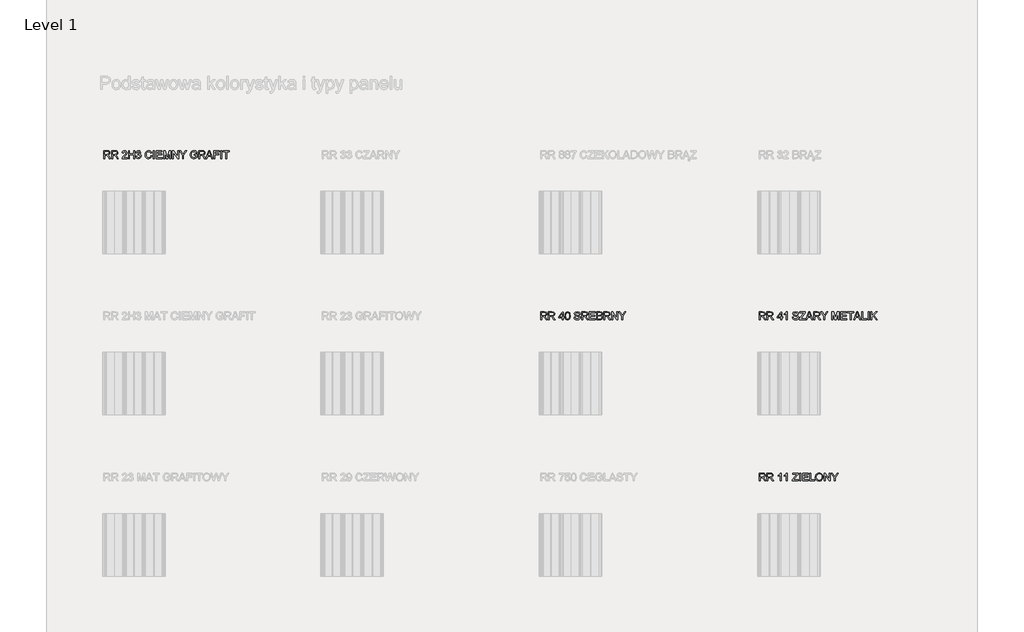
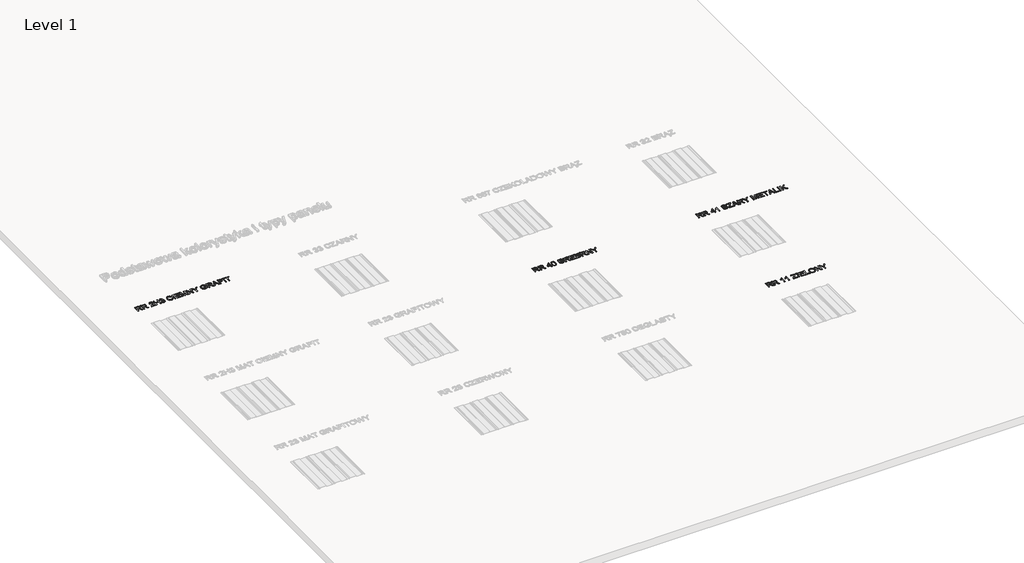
# One storey, part 7 of 9: 4 proxies.
"""IFC4 building model written with IfcOpenShell, lengths in millimetres."""

from ifc_helpers import new_model, si_unit, frame, origin, place, context, project, spatial, polyline, outline, extrude, element, save

model = new_model("IFC4")

# Units and contexts
model_context = context("Model", 3, world=origin())
ifc_project = project(units=[si_unit("LENGTHUNIT", "METRE", prefix="MILLI")], contexts=[model_context])

# Site, building, storey
site = spatial("IfcSite", under=ifc_project)
building = spatial("IfcBuilding", under=site)
storey = spatial("IfcBuildingStorey", under=building, Name="Level 1", Elevation=0.0)

# Proxies
placement = place(None, origin())
element("IfcBuildingElementProxy", 1, Name="150 Blue", ObjectType="150 Blue", at=placement, inside=storey, context=model_context, shape_type="SweptSolid", body=[
    extrude(outline(polyline([(-8736.4118342, 1464.3485888), (-8736.4118342, 1615.033054), (-8671.4806621, 1615.033054), (-8641.3327325, 1610.967958), (-8632.0529092, 1605.3393635), (-8624.8516192, 1596.583772), (-8620.2301016, 1585.7266546), (-8618.6895957, 1573.7934824), (-8621.2417771, 1558.9494439), (-8628.8983211, 1546.6437911), (-8641.8891541, 1537.6214852), (-8660.4442022, 1532.6274871), (-8649.7388361, 1524.5708714), (-8634.4717333, 1505.1834903), (-8609.3453931, 1464.3485888), (-8631.2343718, 1464.3485888), (-8650.8424821, 1495.5817702), (-8665.0059389, 1516.2567383), (-8674.9571469, 1526.0240053), (-8683.9150735, 1529.6108548), (-8694.8411687, 1530.2730423), (-8717.576276, 1530.2730423), (-8717.576276, 1464.3485888), (-8736.4118342, 1464.3485888)]), holes=[polyline([(-8717.576276, 1549.1086005), (-8675.4169994, 1549.1086005), (-8653.9142968, 1551.775745), (-8641.7006145, 1560.3106073), (-8637.5251539, 1573.0945066), (-8639.5163152, 1582.2823594), (-8645.4897991, 1589.6859846), (-8655.7675023, 1594.5696181), (-8670.6713217, 1596.1974959), (-8717.576276, 1596.1974959), (-8717.576276, 1549.1086005)])]), frame((0.0, 0.0, 600.0), z_axis=(0.0, 0.0, 1.0), x_axis=(1.0, 0.0, 0.0)), (0.0, 0.0, 1.0), 10.0),
    extrude(outline(polyline([(-8585.727369, 1464.3485888), (-8585.727369, 1615.033054), (-8520.7961968, 1615.033054), (-8490.6482673, 1610.967958), (-8481.368444, 1605.3393635), (-8474.1671539, 1596.583772), (-8469.5456364, 1585.7266546), (-8468.0051305, 1573.7934824), (-8470.5573119, 1558.9494439), (-8478.2138559, 1546.6437911), (-8491.2046888, 1537.6214852), (-8509.759737, 1532.6274871), (-8499.0543709, 1524.5708714), (-8483.7872681, 1505.1834903), (-8458.6609278, 1464.3485888), (-8480.5499066, 1464.3485888), (-8500.1580169, 1495.5817702), (-8514.3214737, 1516.2567383), (-8524.2726817, 1526.0240053), (-8533.2306083, 1529.6108548), (-8544.1567035, 1530.2730423), (-8566.8918108, 1530.2730423), (-8566.8918108, 1464.3485888), (-8585.727369, 1464.3485888)]), holes=[polyline([(-8566.8918108, 1549.1086005), (-8524.7325342, 1549.1086005), (-8503.2298316, 1551.775745), (-8491.0161493, 1560.3106073), (-8486.8406887, 1573.0945066), (-8488.83185, 1582.2823594), (-8494.8053339, 1589.6859846), (-8505.0830371, 1594.5696181), (-8519.9868564, 1596.1974959), (-8566.8918108, 1596.1974959), (-8566.8918108, 1549.1086005)])]), frame((0.0, 0.0, 600.0), z_axis=(0.0, 0.0, 1.0), x_axis=(1.0, 0.0, 0.0)), (0.0, 0.0, 1.0), 10.0),
    extrude(outline(polyline([(-8286.7128833, 1483.184147), (-8286.7128833, 1464.3485888), (-8385.5995636, 1464.3485888), (-8383.5762126, 1477.3348232), (-8372.1166885, 1497.3292097), (-8348.5170585, 1519.1630061), (-8316.0146842, 1550.5433403), (-8309.9308357, 1561.3590709), (-8307.9028862, 1571.880496), (-8309.8204711, 1581.3120707), (-8315.5732258, 1589.1525557), (-8324.4161893, 1594.4362608), (-8335.6044005, 1596.1974959), (-8347.3536317, 1594.4776476), (-8356.4817037, 1589.3181026), (-8362.3724141, 1581.1235311), (-8364.4095607, 1570.2986034), (-8383.2451188, 1572.6530482), (-8378.6787836, 1590.872404), (-8368.8057505, 1604.1805352), (-8354.1410545, 1612.3199243), (-8335.1997303, 1615.033054), (-8316.1204503, 1612.0164217), (-8301.4833454, 1602.9665246), (-8292.1713324, 1589.4468613), (-8289.0673281, 1573.0209302), (-8292.4150542, 1555.1602593), (-8303.5434846, 1536.6925832), (-8330.5276289, 1510.8856612), (-8352.1958784, 1492.7674729), (-8360.6939525, 1483.184147), (-8286.7128833, 1483.184147)])), frame((0.0, 0.0, 600.0), z_axis=(0.0, 0.0, 1.0), x_axis=(1.0, 0.0, 0.0)), (0.0, 0.0, 1.0), 10.0),
    extrude(outline(polyline([(-8260.8139908, 1464.3485888), (-8260.8139908, 1615.033054), (-8241.9784327, 1615.033054), (-8241.9784327, 1553.81749), (-8161.9273105, 1553.81749), (-8161.9273105, 1615.033054), (-8143.0917524, 1615.033054), (-8143.0917524, 1464.3485888), (-8161.9273105, 1464.3485888), (-8161.9273105, 1534.9819319), (-8241.9784327, 1534.9819319), (-8241.9784327, 1464.3485888), (-8260.8139908, 1464.3485888)])), frame((0.0, 0.0, 600.0), z_axis=(0.0, 0.0, 1.0), x_axis=(1.0, 0.0, 0.0)), (0.0, 0.0, 1.0), 10.0),
    extrude(outline(polyline([(-8117.1928599, 1504.3741499), (-8098.3573018, 1506.7285947), (-8094.1404544, 1494.8919915), (-8087.9646354, 1486.8997551), (-8079.5263421, 1482.3472154), (-8068.522072, 1480.8297022), (-8055.6094139, 1482.9174325), (-8045.6398119, 1489.1806235), (-8039.2662563, 1498.5248262), (-8037.1417378, 1509.8555916), (-8039.2478622, 1520.6115414), (-8045.5662355, 1529.3349433), (-8055.1311673, 1535.1152891), (-8066.9769676, 1537.0420711), (-8080.1839312, 1534.9819319), (-8078.0870038, 1553.81749), (-8075.0703715, 1553.5967608), (-8053.6964276, 1559.0046262), (-8046.5779109, 1565.8656254), (-8044.2050721, 1575.6328924), (-8045.9249204, 1583.767683), (-8051.0844654, 1590.3665663), (-8058.9571401, 1594.7397635), (-8068.8163776, 1596.1974959), (-8078.6940091, 1594.7259679), (-8086.7690189, 1590.311384), (-8092.6643279, 1582.9537441), (-8096.002857, 1572.6530482), (-8114.8384152, 1575.007493), (-8109.2925941, 1591.9208677), (-8099.4241596, 1604.5484172), (-8085.9228903, 1612.4118948), (-8069.4785651, 1615.033054), (-8046.7618519, 1609.864312), (-8030.8693498, 1595.7376434), (-8025.3695139, 1576.7365383), (-8030.5934383, 1559.3725082), (-8046.0444821, 1546.9013085), (-8034.2538641, 1542.1372367), (-8025.5166667, 1534.0254387), (-8020.1088014, 1523.0073729), (-8018.3061796, 1509.5244978), (-8021.9114232, 1491.1671863), (-8032.7271538, 1475.8265071), (-8049.0519174, 1465.4522348), (-8069.1842596, 1461.994144), (-8087.3944183, 1464.9463971), (-8102.2200627, 1473.8031561), (-8112.5299556, 1487.3504106), (-8117.1928599, 1504.3741499)])), frame((0.0, 0.0, 600.0), z_axis=(0.0, 0.0, 1.0), x_axis=(1.0, 0.0, 0.0)), (0.0, 0.0, 1.0), 10.0),
    extrude(outline(polyline([(-7829.9505981, 1517.9122073), (-7811.1150399, 1513.056165), (-7819.8062521, 1491.1074054), (-7833.445477, 1475.072349), (-7851.3613302, 1465.2636953), (-7872.8824269, 1461.994144), (-7894.7300189, 1464.4681505), (-7912.0802535, 1471.8901697), (-7925.3791876, 1484.0026844), (-7935.0728782, 1500.5481771), (-7940.9911798, 1519.9999376), (-7942.963947, 1540.8312556), (-7940.7336624, 1562.8030078), (-7934.0428086, 1581.7765217), (-7923.2408735, 1597.1493905), (-7908.6773451, 1608.3192076), (-7891.4052854, 1615.120426), (-7872.4777567, 1617.3874988), (-7851.8257812, 1614.4536399), (-7834.7514581, 1605.6520632), (-7821.7882163, 1591.5253945), (-7813.4694847, 1572.61626), (-7832.3050429, 1568.1280997), (-7838.8349483, 1581.8638936), (-7847.7560867, 1591.2862712), (-7859.1788226, 1596.7355233), (-7873.2135207, 1598.5519407), (-7889.3911315, 1596.5377867), (-7902.6808685, 1590.495325), (-7912.7654337, 1581.0591518), (-7919.3275288, 1568.8638636), (-7924.1283889, 1540.8680438), (-7922.7074446, 1523.4672254), (-7918.444612, 1508.4208518), (-7911.1789426, 1496.3037386), (-7900.7494881, 1487.6907014), (-7888.2460987, 1482.544952), (-7874.7586251, 1480.8297022), (-7859.0362683, 1483.1657529), (-7845.9350708, 1490.1739049), (-7836.0436436, 1501.7805818), (-7829.9505981, 1517.9122073)])), frame((0.0, 0.0, 600.0), z_axis=(0.0, 0.0, 1.0), x_axis=(1.0, 0.0, 0.0)), (0.0, 0.0, 1.0), 10.0),
    extrude(outline(polyline([(-7782.8617027, 1464.3485888), (-7782.8617027, 1615.033054), (-7764.0261446, 1615.033054), (-7764.0261446, 1464.3485888), (-7782.8617027, 1464.3485888)])), frame((0.0, 0.0, 600.0), z_axis=(0.0, 0.0, 1.0), x_axis=(1.0, 0.0, 0.0)), (0.0, 0.0, 1.0), 10.0),
    extrude(outline(polyline([(-7726.3550282, 1464.3485888), (-7726.3550282, 1615.033054), (-7618.0505689, 1615.033054), (-7618.0505689, 1596.1974959), (-7707.5194701, 1596.1974959), (-7707.5194701, 1551.4630453), (-7622.7594584, 1551.4630453), (-7622.7594584, 1532.6274871), (-7707.5194701, 1532.6274871), (-7707.5194701, 1483.184147), (-7615.6961241, 1483.184147), (-7615.6961241, 1464.3485888), (-7726.3550282, 1464.3485888)])), frame((0.0, 0.0, 600.0), z_axis=(0.0, 0.0, 1.0), x_axis=(1.0, 0.0, 0.0)), (0.0, 0.0, 1.0), 10.0),
    extrude(outline(polyline([(-7587.4427869, 1464.3485888), (-7587.4427869, 1615.033054), (-7555.1427477, 1615.033054), (-7524.2406601, 1508.825522), (-7517.9866662, 1486.6422377), (-7511.2544257, 1510.664932), (-7480.9409493, 1615.033054), (-7448.5305455, 1615.033054), (-7448.5305455, 1464.3485888), (-7467.3661036, 1464.3485888), (-7467.3661036, 1596.1974959), (-7505.2211609, 1464.3485888), (-7530.7153832, 1464.3485888), (-7568.6072287, 1596.1974959), (-7568.6072287, 1464.3485888), (-7587.4427869, 1464.3485888)])), frame((0.0, 0.0, 600.0), z_axis=(0.0, 0.0, 1.0), x_axis=(1.0, 0.0, 0.0)), (0.0, 0.0, 1.0), 10.0),
    extrude(outline(polyline([(-7415.5683187, 1464.3485888), (-7415.5683187, 1615.033054), (-7395.4083854, 1615.033054), (-7316.6816384, 1495.6553466), (-7316.6816384, 1615.033054), (-7297.8460803, 1615.033054), (-7297.8460803, 1464.3485888), (-7318.0060136, 1464.3485888), (-7396.7327606, 1583.7630844), (-7396.7327606, 1464.3485888), (-7415.5683187, 1464.3485888)])), frame((0.0, 0.0, 600.0), z_axis=(0.0, 0.0, 1.0), x_axis=(1.0, 0.0, 0.0)), (0.0, 0.0, 1.0), 10.0),
    extrude(outline(polyline([(-7222.5038477, 1464.3485888), (-7222.5038477, 1528.176115), (-7281.3649669, 1615.033054), (-7259.1816826, 1615.033054), (-7227.7645602, 1568.6431344), (-7211.688117, 1544.951534), (-7195.5380974, 1570.3353916), (-7167.0272428, 1615.033054), (-7144.8071703, 1615.033054), (-7203.6682895, 1528.176115), (-7203.6682895, 1464.3485888), (-7222.5038477, 1464.3485888)])), frame((0.0, 0.0, 600.0), z_axis=(0.0, 0.0, 1.0), x_axis=(1.0, 0.0, 0.0)), (0.0, 0.0, 1.0), 10.0),
    extrude(outline(polyline([(-6998.8315946, 1523.209708), (-6998.8315946, 1542.0452662), (-6937.6160306, 1542.0452662), (-6937.6160306, 1485.7225327), (-6967.8375365, 1467.9538324), (-6999.7880878, 1461.994144), (-7020.9183099, 1464.3623844), (-7040.0159839, 1471.4671054), (-7055.880895, 1483.0599868), (-7067.312828, 1498.8927082), (-7074.224411, 1517.8846162), (-7076.528272, 1538.9550574), (-7074.233608, 1560.17725), (-7067.3496162, 1579.9187176), (-7056.161405, 1596.4780059), (-7040.954083, 1608.1536607), (-7022.4312246, 1615.0790393), (-7001.296404, 1617.3874988), (-6971.8290561, 1612.0348158), (-6960.0798249, 1605.6336691), (-6951.1724821, 1597.135595), (-6939.7865344, 1572.2115898), (-6957.1505645, 1567.3187593), (-6965.7406091, 1584.7379717), (-6980.4191007, 1594.7811502), (-7001.5907095, 1598.5519407), (-7025.7053743, 1594.4868446), (-7042.1129113, 1583.8182667), (-7051.8066019, 1569.305322), (-7057.6927138, 1539.7276096), (-7055.9222817, 1521.7151874), (-7050.6109854, 1506.8941416), (-7041.9197733, 1495.3702381), (-7030.0095937, 1487.249243), (-7016.0714646, 1482.4345874), (-7001.296404, 1480.8297022), (-6975.5262702, 1485.6673504), (-6956.4515887, 1495.9864404), (-6956.4515887, 1523.209708), (-6998.8315946, 1523.209708)])), frame((0.0, 0.0, 600.0), z_axis=(0.0, 0.0, 1.0), x_axis=(1.0, 0.0, 0.0)), (0.0, 0.0, 1.0), 10.0),
    extrude(outline(polyline([(-6907.0082486, 1464.3485888), (-6907.0082486, 1615.033054), (-6842.0770764, 1615.033054), (-6811.9291469, 1610.967958), (-6802.6493236, 1605.3393635), (-6795.4480336, 1596.583772), (-6790.826516, 1585.7266546), (-6789.2860101, 1573.7934824), (-6791.8381915, 1558.9494439), (-6799.4947355, 1546.6437911), (-6812.4855685, 1537.6214852), (-6831.0406166, 1532.6274871), (-6820.3352505, 1524.5708714), (-6805.0681477, 1505.1834903), (-6779.9418075, 1464.3485888), (-6801.8307862, 1464.3485888), (-6821.4388965, 1495.5817702), (-6835.6023533, 1516.2567383), (-6845.5535613, 1526.0240053), (-6854.5114879, 1529.6108548), (-6865.4375831, 1530.2730423), (-6888.1726904, 1530.2730423), (-6888.1726904, 1464.3485888), (-6907.0082486, 1464.3485888)]), holes=[polyline([(-6888.1726904, 1549.1086005), (-6846.0134138, 1549.1086005), (-6824.5107112, 1551.775745), (-6812.2970289, 1560.3106073), (-6808.1215683, 1573.0945066), (-6810.1127296, 1582.2823594), (-6816.0862135, 1589.6859846), (-6826.3639167, 1594.5696181), (-6841.267736, 1596.1974959), (-6888.1726904, 1596.1974959), (-6888.1726904, 1549.1086005)])]), frame((0.0, 0.0, 600.0), z_axis=(0.0, 0.0, 1.0), x_axis=(1.0, 0.0, 0.0)), (0.0, 0.0, 1.0), 10.0),
    extrude(outline(polyline([(-6773.8349663, 1464.3485888), (-6713.6862601, 1615.033054), (-6697.6466051, 1615.033054), (-6637.5346871, 1464.3485888), (-6657.4371031, 1464.3485888), (-6674.6539804, 1511.4374842), (-6736.7524612, 1511.4374842), (-6753.9693386, 1464.3485888), (-6773.8349663, 1464.3485888)]), holes=[polyline([(-6729.8362797, 1530.2730423), (-6681.5333737, 1530.2730423), (-6695.1450076, 1567.3187593), (-6705.7032208, 1596.1974959), (-6715.0842117, 1570.5561208), (-6729.8362797, 1530.2730423)])]), frame((0.0, 0.0, 600.0), z_axis=(0.0, 0.0, 1.0), x_axis=(1.0, 0.0, 0.0)), (0.0, 0.0, 1.0), 10.0),
    extrude(outline(polyline([(-6617.411542, 1464.3485888), (-6617.411542, 1615.033054), (-6516.1704169, 1615.033054), (-6516.1704169, 1596.1974959), (-6598.5759838, 1596.1974959), (-6598.5759838, 1551.4630453), (-6527.9426408, 1551.4630453), (-6527.9426408, 1532.6274871), (-6598.5759838, 1532.6274871), (-6598.5759838, 1464.3485888), (-6617.411542, 1464.3485888)])), frame((0.0, 0.0, 600.0), z_axis=(0.0, 0.0, 1.0), x_axis=(1.0, 0.0, 0.0)), (0.0, 0.0, 1.0), 10.0),
    extrude(outline(polyline([(-6487.9170797, 1464.3485888), (-6487.9170797, 1615.033054), (-6469.0815215, 1615.033054), (-6469.0815215, 1464.3485888), (-6487.9170797, 1464.3485888)])), frame((0.0, 0.0, 600.0), z_axis=(0.0, 0.0, 1.0), x_axis=(1.0, 0.0, 0.0)), (0.0, 0.0, 1.0), 10.0),
    extrude(outline(polyline([(-6393.7392889, 1464.3485888), (-6393.7392889, 1596.1974959), (-6443.1826291, 1596.1974959), (-6443.1826291, 1615.033054), (-6325.4603906, 1615.033054), (-6325.4603906, 1596.1974959), (-6374.9037308, 1596.1974959), (-6374.9037308, 1464.3485888), (-6393.7392889, 1464.3485888)])), frame((0.0, 0.0, 600.0), z_axis=(0.0, 0.0, 1.0), x_axis=(1.0, 0.0, 0.0)), (0.0, 0.0, 1.0), 10.0),
])
element("IfcBuildingElementProxy", 2, Name="150 Blue", ObjectType="150 Blue", at=placement, inside=storey, context=model_context, shape_type="SweptSolid", body=[
    extrude(outline(polyline([(-336.4118342, -1635.6514112), (-336.4118342, -1484.966946), (-271.4806621, -1484.966946), (-241.3327325, -1489.032042), (-232.0529092, -1494.6606365), (-224.8516192, -1503.416228), (-220.2301016, -1514.2733454), (-218.6895957, -1526.2065176), (-221.2417771, -1541.0505561), (-228.8983211, -1553.3562089), (-241.8891541, -1562.3785148), (-260.4442022, -1567.3725129), (-249.7388361, -1575.4291286), (-234.4717333, -1594.8165097), (-209.3453931, -1635.6514112), (-231.2343718, -1635.6514112), (-250.8424821, -1604.4182298), (-265.0059389, -1583.7432617), (-274.9571469, -1573.9759947), (-283.9150735, -1570.3891452), (-294.8411687, -1569.7269577), (-317.576276, -1569.7269577), (-317.576276, -1635.6514112), (-336.4118342, -1635.6514112)]), holes=[polyline([(-317.576276, -1550.8913995), (-275.4169994, -1550.8913995), (-253.9142968, -1548.224255), (-241.7006145, -1539.6893927), (-237.5251539, -1526.9054934), (-239.5163152, -1517.7176406), (-245.4897991, -1510.3140154), (-255.7675023, -1505.4303819), (-270.6713217, -1503.8025041), (-317.576276, -1503.8025041), (-317.576276, -1550.8913995)])]), frame((0.0, 0.0, 600.0), z_axis=(0.0, 0.0, 1.0), x_axis=(1.0, 0.0, 0.0)), (0.0, 0.0, 1.0), 10.0),
    extrude(outline(polyline([(-185.727369, -1635.6514112), (-185.727369, -1484.966946), (-120.7961968, -1484.966946), (-90.6482673, -1489.032042), (-81.368444, -1494.6606365), (-74.1671539, -1503.416228), (-69.5456364, -1514.2733454), (-68.0051305, -1526.2065176), (-70.5573119, -1541.0505561), (-78.2138559, -1553.3562089), (-91.2046888, -1562.3785148), (-109.759737, -1567.3725129), (-99.0543709, -1575.4291286), (-83.7872681, -1594.8165097), (-58.6609278, -1635.6514112), (-80.5499066, -1635.6514112), (-100.1580169, -1604.4182298), (-114.3214737, -1583.7432617), (-124.2726817, -1573.9759947), (-133.2306083, -1570.3891452), (-144.1567035, -1569.7269577), (-166.8918108, -1569.7269577), (-166.8918108, -1635.6514112), (-185.727369, -1635.6514112)]), holes=[polyline([(-166.8918108, -1550.8913995), (-124.7325342, -1550.8913995), (-103.2298316, -1548.224255), (-91.0161493, -1539.6893927), (-86.8406887, -1526.9054934), (-88.83185, -1517.7176406), (-94.8053339, -1510.3140154), (-105.0830371, -1505.4303819), (-119.9868564, -1503.8025041), (-166.8918108, -1503.8025041), (-166.8918108, -1550.8913995)])]), frame((0.0, 0.0, 600.0), z_axis=(0.0, 0.0, 1.0), x_axis=(1.0, 0.0, 0.0)), (0.0, 0.0, 1.0), 10.0),
    extrude(outline(polyline([(77.9704452, -1635.6514112), (77.9704452, -1600.3347397), (9.6915469, -1600.3347397), (9.6915469, -1581.4991815), (82.6793347, -1487.3213907), (96.8060033, -1487.3213907), (96.8060033, -1581.4991815), (115.6415615, -1581.4991815), (115.6415615, -1600.3347397), (96.8060033, -1600.3347397), (96.8060033, -1635.6514112), (77.9704452, -1635.6514112)]), holes=[polyline([(77.9704452, -1581.4991815), (77.9704452, -1523.3002499), (32.8681126, -1581.4991815), (77.9704452, -1581.4991815)])]), frame((0.0, 0.0, 600.0), z_axis=(0.0, 0.0, 1.0), x_axis=(1.0, 0.0, 0.0)), (0.0, 0.0, 1.0), 10.0),
    extrude(outline(polyline([(132.1226749, -1561.5231892), (133.5068309, -1537.4039259), (137.6592989, -1518.168296), (144.5386922, -1503.5219941), (154.1036241, -1493.1707145), (166.4230724, -1487.0178881), (181.566015, -1484.966946), (203.5653583, -1489.8229883), (218.7588847, -1503.8208982), (227.5880526, -1526.1145471), (231.0093552, -1561.5231892), (229.6389947, -1585.5044967), (225.5279134, -1604.6941413), (218.6899068, -1619.3542388), (209.1387705, -1629.7469052), (196.7917311, -1635.9411183), (181.566015, -1638.005856), (161.9946929, -1634.4190065), (147.1322603, -1623.6584581), (135.8750712, -1598.1734329), (132.1226749, -1561.5231892)]), holes=[polyline([(150.958233, -1561.486401), (153.165525, -1591.1146971), (159.7874009, -1608.2625966), (169.6466384, -1616.4433725), (181.566015, -1619.1702978), (193.4853917, -1616.4341755), (203.3446291, -1608.2258084), (209.966505, -1591.0687119), (212.173797, -1561.486401), (210.0400814, -1532.5248909), (203.6389347, -1515.2436342), (193.7980913, -1506.6627866), (181.3452858, -1503.8025041), (169.5546679, -1506.3224958), (160.0817065, -1513.8824708), (153.2391014, -1532.2397823), (150.958233, -1561.486401)])]), frame((0.0, 0.0, 600.0), z_axis=(0.0, 0.0, 1.0), x_axis=(1.0, 0.0, 0.0)), (0.0, 0.0, 1.0), 10.0),
    extrude(outline(polyline([(306.3515878, -1583.8536263), (325.1871459, -1583.8536263), (331.2571988, -1602.7075785), (346.0828432, -1614.6269552), (368.6707978, -1619.1702978), (388.3524845, -1615.7306011), (401.0628074, -1606.2760339), (405.2382681, -1593.6392873), (402.1112711, -1581.8854576), (389.3089777, -1573.3322012), (361.8833749, -1566.1401082), (332.3608448, -1556.8510878), (316.3395839, -1542.8347838), (311.0604773, -1524.1095903), (312.6929537, -1513.0777289), (317.5903827, -1502.7908286), (325.6240058, -1494.0720253), (336.6650642, -1487.744455), (364.5873076, -1482.6125012), (394.3857492, -1487.9835783), (405.8084852, -1494.6146513), (414.251377, -1503.7657159), (419.5948629, -1514.8665551), (421.7193815, -1527.3469518), (402.8838233, -1527.3469518), (399.4257326, -1516.1081569), (392.2152454, -1507.9963589), (380.9488593, -1503.0851342), (365.3230716, -1501.4480593), (349.3294019, -1503.0667401), (338.3573214, -1507.9227825), (332.0113569, -1515.0688902), (329.8960355, -1523.5577673), (331.3951546, -1530.7958455), (335.892512, -1536.6175781), (366.6474468, -1547.1390031), (399.9775555, -1556.5935704), (410.7151113, -1563.4269785), (418.2061084, -1571.8606732), (422.6068968, -1581.8026841), (424.0738262, -1593.1610407), (422.3861676, -1604.7723162), (417.3231916, -1615.6938129), (409.091832, -1625.0931979), (397.8990223, -1632.1381381), (384.4391398, -1636.5389265), (369.4065617, -1638.005856), (350.9526812, -1636.4239634), (335.7637533, -1631.6782856), (323.6650342, -1623.7504286), (314.4817799, -1612.6219983), (308.5864709, -1599.0655468), (306.3515878, -1583.8536263)])), frame((0.0, 0.0, 600.0), z_axis=(0.0, 0.0, 1.0), x_axis=(1.0, 0.0, 0.0)), (0.0, 0.0, 1.0), 10.0),
    extrude(outline(polyline([(452.3271635, -1635.6514112), (452.3271635, -1484.966946), (517.2583356, -1484.966946), (547.4062651, -1489.032042), (556.6860884, -1494.6606365), (563.8873785, -1503.416228), (568.5088961, -1514.2733454), (570.0494019, -1526.2065176), (567.4972206, -1541.0505561), (559.8406765, -1553.3562089), (546.8498436, -1562.3785148), (528.2947955, -1567.3725129), (539.0001615, -1575.4291286), (554.2672643, -1594.8165097), (579.3936046, -1635.6514112), (557.5046259, -1635.6514112), (537.8965155, -1604.4182298), (523.7330587, -1583.7432617), (513.7818508, -1573.9759947), (504.8239242, -1570.3891452), (493.8978289, -1569.7269577), (471.1627216, -1569.7269577), (471.1627216, -1635.6514112), (452.3271635, -1635.6514112)]), holes=[polyline([(471.1627216, -1550.8913995), (513.3219983, -1550.8913995), (534.8247009, -1548.224255), (547.0383831, -1539.6893927), (551.2138438, -1526.9054934), (549.2226825, -1517.7176406), (543.2491986, -1510.3140154), (532.9714953, -1505.4303819), (518.067676, -1503.8025041), (471.1627216, -1503.8025041), (471.1627216, -1550.8913995)])]), frame((0.0, 0.0, 600.0), z_axis=(0.0, 0.0, 1.0), x_axis=(1.0, 0.0, 0.0)), (0.0, 0.0, 1.0), 10.0),
    extrude(outline(polyline([(603.0116287, -1635.6514112), (603.0116287, -1484.966946), (711.3160881, -1484.966946), (711.3160881, -1503.8025041), (621.8471868, -1503.8025041), (621.8471868, -1548.5369547), (706.6071985, -1548.5369547), (706.6071985, -1567.3725129), (621.8471868, -1567.3725129), (621.8471868, -1616.815853), (713.6705328, -1616.815853), (713.6705328, -1635.6514112), (603.0116287, -1635.6514112)])), frame((0.0, 0.0, 600.0), z_axis=(0.0, 0.0, 1.0), x_axis=(1.0, 0.0, 0.0)), (0.0, 0.0, 1.0), 10.0),
    extrude(outline(polyline([(741.9238701, -1635.6514112), (741.9238701, -1484.966946), (799.4238259, -1484.966946), (827.5851926, -1489.399924), (837.048957, -1495.02392), (844.2134588, -1503.0299519), (850.2283294, -1522.3069685), (845.169952, -1539.9101219), (829.8844551, -1553.2458443), (840.5576315, -1558.8192565), (848.4441018, -1567.2989365), (853.3139397, -1578.1238642), (854.937219, -1590.7330196), (850.5042409, -1610.9849234), (839.5229634, -1625.4058976), (823.1338205, -1633.0578431), (798.9823675, -1635.6514112), (741.9238701, -1635.6514112)]), holes=[polyline([(760.7594282, -1546.18251), (795.1563948, -1546.18251), (815.2427517, -1544.5638292), (827.3276752, -1537.5924654), (831.3927713, -1525.3236008), (827.6035867, -1513.0363422), (816.7510679, -1505.7706728), (792.5444326, -1503.8025041), (760.7594282, -1503.8025041), (760.7594282, -1546.18251)]), polyline([(760.7594282, -1616.815853), (799.3870377, -1616.815853), (813.3665535, -1616.080089), (825.1939597, -1611.9782048), (833.0298462, -1603.6088894), (836.1016608, -1590.9169606), (832.4964173, -1576.2752572), (820.8161639, -1567.5380598), (797.5476277, -1565.0180681), (760.7594282, -1565.0180681), (760.7594282, -1616.815853)])]), frame((0.0, 0.0, 600.0), z_axis=(0.0, 0.0, 1.0), x_axis=(1.0, 0.0, 0.0)), (0.0, 0.0, 1.0), 10.0),
    extrude(outline(polyline([(880.8361114, -1635.6514112), (880.8361114, -1484.966946), (945.7672836, -1484.966946), (975.9152131, -1489.032042), (985.1950364, -1494.6606365), (992.3963265, -1503.416228), (997.017844, -1514.2733454), (998.5583499, -1526.2065176), (996.0061686, -1541.0505561), (988.3496245, -1553.3562089), (975.3587916, -1562.3785148), (956.8037434, -1567.3725129), (967.5091095, -1575.4291286), (982.7762123, -1594.8165097), (1007.9025526, -1635.6514112), (986.0135739, -1635.6514112), (966.4054635, -1604.4182298), (952.2420067, -1583.7432617), (942.2907987, -1573.9759947), (933.3328722, -1570.3891452), (922.4067769, -1569.7269577), (899.6716696, -1569.7269577), (899.6716696, -1635.6514112), (880.8361114, -1635.6514112)]), holes=[polyline([(899.6716696, -1550.8913995), (941.8309462, -1550.8913995), (963.3336489, -1548.224255), (975.5473311, -1539.6893927), (979.7227917, -1526.9054934), (977.7316304, -1517.7176406), (971.7581465, -1510.3140154), (961.4804433, -1505.4303819), (946.576624, -1503.8025041), (899.6716696, -1503.8025041), (899.6716696, -1550.8913995)])]), frame((0.0, 0.0, 600.0), z_axis=(0.0, 0.0, 1.0), x_axis=(1.0, 0.0, 0.0)), (0.0, 0.0, 1.0), 10.0),
    extrude(outline(polyline([(1031.5205767, -1635.6514112), (1031.5205767, -1484.966946), (1051.68051, -1484.966946), (1130.407257, -1604.3446534), (1130.407257, -1484.966946), (1149.2428151, -1484.966946), (1149.2428151, -1635.6514112), (1129.0828818, -1635.6514112), (1050.3561348, -1516.2369156), (1050.3561348, -1635.6514112), (1031.5205767, -1635.6514112)])), frame((0.0, 0.0, 600.0), z_axis=(0.0, 0.0, 1.0), x_axis=(1.0, 0.0, 0.0)), (0.0, 0.0, 1.0), 10.0),
    extrude(outline(polyline([(1224.5850477, -1635.6514112), (1224.5850477, -1571.823885), (1165.7239285, -1484.966946), (1187.9072128, -1484.966946), (1219.3243352, -1531.3568656), (1235.4007784, -1555.048466), (1251.550798, -1529.6646084), (1280.0616526, -1484.966946), (1302.2817251, -1484.966946), (1243.4206059, -1571.823885), (1243.4206059, -1635.6514112), (1224.5850477, -1635.6514112)])), frame((0.0, 0.0, 600.0), z_axis=(0.0, 0.0, 1.0), x_axis=(1.0, 0.0, 0.0)), (0.0, 0.0, 1.0), 10.0),
])
element("IfcBuildingElementProxy", 3, Name="150 Blue", ObjectType="150 Blue", at=placement, inside=storey, context=model_context, shape_type="SweptSolid", body=[
    extrude(outline(polyline([(3863.5881658, -1635.6514112), (3863.5881658, -1484.966946), (3928.5193379, -1484.966946), (3958.6672675, -1489.032042), (3967.9470908, -1494.6606365), (3975.1483808, -1503.416228), (3979.7698984, -1514.2733454), (3981.3104043, -1526.2065176), (3978.7582229, -1541.0505561), (3971.1016789, -1553.3562089), (3958.1108459, -1562.3785148), (3939.5557978, -1567.3725129), (3950.2611639, -1575.4291286), (3965.5282667, -1594.8165097), (3990.6546069, -1635.6514112), (3968.7656282, -1635.6514112), (3949.1575179, -1604.4182298), (3934.9940611, -1583.7432617), (3925.0428531, -1573.9759947), (3916.0849265, -1570.3891452), (3905.1588313, -1569.7269577), (3882.423724, -1569.7269577), (3882.423724, -1635.6514112), (3863.5881658, -1635.6514112)]), holes=[polyline([(3882.423724, -1550.8913995), (3924.5830006, -1550.8913995), (3946.0857032, -1548.224255), (3958.2993855, -1539.6893927), (3962.4748461, -1526.9054934), (3960.4836848, -1517.7176406), (3954.5102009, -1510.3140154), (3944.2324977, -1505.4303819), (3929.3286783, -1503.8025041), (3882.423724, -1503.8025041), (3882.423724, -1550.8913995)])]), frame((0.0, 0.0, 600.0), z_axis=(0.0, 0.0, 1.0), x_axis=(1.0, 0.0, 0.0)), (0.0, 0.0, 1.0), 10.0),
    extrude(outline(polyline([(4014.272631, -1635.6514112), (4014.272631, -1484.966946), (4079.2038032, -1484.966946), (4109.3517327, -1489.032042), (4118.631556, -1494.6606365), (4125.8328461, -1503.416228), (4130.4543636, -1514.2733454), (4131.9948695, -1526.2065176), (4129.4426881, -1541.0505561), (4121.7861441, -1553.3562089), (4108.7953112, -1562.3785148), (4090.240263, -1567.3725129), (4100.9456291, -1575.4291286), (4116.2127319, -1594.8165097), (4141.3390722, -1635.6514112), (4119.4500934, -1635.6514112), (4099.8419831, -1604.4182298), (4085.6785263, -1583.7432617), (4075.7273183, -1573.9759947), (4066.7693917, -1570.3891452), (4055.8432965, -1569.7269577), (4033.1081892, -1569.7269577), (4033.1081892, -1635.6514112), (4014.272631, -1635.6514112)]), holes=[polyline([(4033.1081892, -1550.8913995), (4075.2674658, -1550.8913995), (4096.7701684, -1548.224255), (4108.9838507, -1539.6893927), (4113.1593113, -1526.9054934), (4111.16815, -1517.7176406), (4105.1946661, -1510.3140154), (4094.9169629, -1505.4303819), (4080.0131436, -1503.8025041), (4033.1081892, -1503.8025041), (4033.1081892, -1550.8913995)])]), frame((0.0, 0.0, 600.0), z_axis=(0.0, 0.0, 1.0), x_axis=(1.0, 0.0, 0.0)), (0.0, 0.0, 1.0), 10.0),
    extrude(outline(polyline([(4277.9704452, -1635.6514112), (4277.9704452, -1600.3347397), (4209.6915469, -1600.3347397), (4209.6915469, -1581.4991815), (4282.6793347, -1487.3213907), (4296.8060033, -1487.3213907), (4296.8060033, -1581.4991815), (4315.6415615, -1581.4991815), (4315.6415615, -1600.3347397), (4296.8060033, -1600.3347397), (4296.8060033, -1635.6514112), (4277.9704452, -1635.6514112)]), holes=[polyline([(4277.9704452, -1581.4991815), (4277.9704452, -1523.3002499), (4232.8681126, -1581.4991815), (4277.9704452, -1581.4991815)])]), frame((0.0, 0.0, 600.0), z_axis=(0.0, 0.0, 1.0), x_axis=(1.0, 0.0, 0.0)), (0.0, 0.0, 1.0), 10.0),
    extrude(outline(polyline([(4402.7560179, -1635.6514112), (4383.9204598, -1635.6514112), (4383.9204598, -1518.2234783), (4366.078183, -1530.9338013), (4346.2493435, -1540.4435508), (4346.2493435, -1522.6380623), (4373.8588872, -1505.0165147), (4390.6159121, -1484.966946), (4402.7560179, -1484.966946), (4402.7560179, -1635.6514112)])), frame((0.0, 0.0, 600.0), z_axis=(0.0, 0.0, 1.0), x_axis=(1.0, 0.0, 0.0)), (0.0, 0.0, 1.0), 10.0),
    extrude(outline(polyline([(4506.3515878, -1583.8536263), (4525.1871459, -1583.8536263), (4531.2571988, -1602.7075785), (4546.0828432, -1614.6269552), (4568.6707978, -1619.1702978), (4588.3524845, -1615.7306011), (4601.0628074, -1606.2760339), (4605.2382681, -1593.6392873), (4602.1112711, -1581.8854576), (4589.3089777, -1573.3322012), (4561.8833749, -1566.1401082), (4532.3608448, -1556.8510878), (4516.3395839, -1542.8347838), (4511.0604773, -1524.1095903), (4512.6929537, -1513.0777289), (4517.5903827, -1502.7908286), (4525.6240058, -1494.0720253), (4536.6650642, -1487.744455), (4564.5873076, -1482.6125012), (4594.3857492, -1487.9835783), (4605.8084852, -1494.6146513), (4614.251377, -1503.7657159), (4619.5948629, -1514.8665551), (4621.7193815, -1527.3469518), (4602.8838233, -1527.3469518), (4599.4257326, -1516.1081569), (4592.2152454, -1507.9963589), (4580.9488593, -1503.0851342), (4565.3230716, -1501.4480593), (4549.3294019, -1503.0667401), (4538.3573214, -1507.9227825), (4532.0113569, -1515.0688902), (4529.8960355, -1523.5577673), (4531.3951546, -1530.7958455), (4535.892512, -1536.6175781), (4566.6474468, -1547.1390031), (4599.9775555, -1556.5935704), (4610.7151113, -1563.4269785), (4618.2061084, -1571.8606732), (4622.6068968, -1581.8026841), (4624.0738262, -1593.1610407), (4622.3861676, -1604.7723162), (4617.3231916, -1615.6938129), (4609.091832, -1625.0931979), (4597.8990223, -1632.1381381), (4584.4391398, -1636.5389265), (4569.4065617, -1638.005856), (4550.9526812, -1636.4239634), (4535.7637533, -1631.6782856), (4523.6650342, -1623.7504286), (4514.4817799, -1612.6219983), (4508.5864709, -1599.0655468), (4506.3515878, -1583.8536263)])), frame((0.0, 0.0, 600.0), z_axis=(0.0, 0.0, 1.0), x_axis=(1.0, 0.0, 0.0)), (0.0, 0.0, 1.0), 10.0),
    extrude(outline(polyline([(4640.5549396, -1635.6514112), (4640.5549396, -1616.1168772), (4717.5894294, -1521.7183573), (4732.2311328, -1503.8025041), (4649.9727187, -1503.8025041), (4649.9727187, -1484.966946), (4755.9227333, -1484.966946), (4755.9227333, -1503.8025041), (4671.60418, -1607.1037684), (4663.6579289, -1616.815853), (4758.2771781, -1616.815853), (4758.2771781, -1635.6514112), (4640.5549396, -1635.6514112)])), frame((0.0, 0.0, 600.0), z_axis=(0.0, 0.0, 1.0), x_axis=(1.0, 0.0, 0.0)), (0.0, 0.0, 1.0), 10.0),
    extrude(outline(polyline([(4761.955998, -1635.6514112), (4822.1047042, -1484.966946), (4838.1443592, -1484.966946), (4898.2562772, -1635.6514112), (4878.3538613, -1635.6514112), (4861.1369839, -1588.5625158), (4799.0385031, -1588.5625158), (4781.8216258, -1635.6514112), (4761.955998, -1635.6514112)]), holes=[polyline([(4805.9546846, -1569.7269577), (4854.2575906, -1569.7269577), (4840.6459568, -1532.6812407), (4830.0877435, -1503.8025041), (4820.7067526, -1529.4438792), (4805.9546846, -1569.7269577)])]), frame((0.0, 0.0, 600.0), z_axis=(0.0, 0.0, 1.0), x_axis=(1.0, 0.0, 0.0)), (0.0, 0.0, 1.0), 10.0),
    extrude(outline(polyline([(4918.3794224, -1635.6514112), (4918.3794224, -1484.966946), (4983.3105945, -1484.966946), (5013.458524, -1489.032042), (5022.7383474, -1494.6606365), (5029.9396374, -1503.416228), (5034.561155, -1514.2733454), (5036.1016608, -1526.2065176), (5033.5494795, -1541.0505561), (5025.8929355, -1553.3562089), (5012.9021025, -1562.3785148), (4994.3470544, -1567.3725129), (5005.0524204, -1575.4291286), (5020.3195232, -1594.8165097), (5045.4458635, -1635.6514112), (5023.5568848, -1635.6514112), (5003.9487744, -1604.4182298), (4989.7853176, -1583.7432617), (4979.8341097, -1573.9759947), (4970.8761831, -1570.3891452), (4959.9500878, -1569.7269577), (4937.2149805, -1569.7269577), (4937.2149805, -1635.6514112), (4918.3794224, -1635.6514112)]), holes=[polyline([(4937.2149805, -1550.8913995), (4979.3742572, -1550.8913995), (5000.8769598, -1548.224255), (5013.090642, -1539.6893927), (5017.2661027, -1526.9054934), (5015.2749414, -1517.7176406), (5009.3014575, -1510.3140154), (4999.0237542, -1505.4303819), (4984.1199349, -1503.8025041), (4937.2149805, -1503.8025041), (4937.2149805, -1550.8913995)])]), frame((0.0, 0.0, 600.0), z_axis=(0.0, 0.0, 1.0), x_axis=(1.0, 0.0, 0.0)), (0.0, 0.0, 1.0), 10.0),
    extrude(outline(polyline([(5111.4438934, -1635.6514112), (5111.4438934, -1571.823885), (5052.5827742, -1484.966946), (5074.7660585, -1484.966946), (5106.1831809, -1531.3568656), (5122.2596241, -1555.048466), (5138.4096437, -1529.6646084), (5166.9204983, -1484.966946), (5189.1405708, -1484.966946), (5130.2794516, -1571.823885), (5130.2794516, -1635.6514112), (5111.4438934, -1635.6514112)])), frame((0.0, 0.0, 600.0), z_axis=(0.0, 0.0, 1.0), x_axis=(1.0, 0.0, 0.0)), (0.0, 0.0, 1.0), 10.0),
    extrude(outline(polyline([(5264.4828034, -1635.6514112), (5264.4828034, -1484.966946), (5296.7828426, -1484.966946), (5327.6849302, -1591.174478), (5333.9389241, -1613.3577623), (5340.6711646, -1589.335068), (5370.984641, -1484.966946), (5403.3950448, -1484.966946), (5403.3950448, -1635.6514112), (5384.5594867, -1635.6514112), (5384.5594867, -1503.8025041), (5346.7044294, -1635.6514112), (5321.2102071, -1635.6514112), (5283.3183616, -1503.8025041), (5283.3183616, -1635.6514112), (5264.4828034, -1635.6514112)])), frame((0.0, 0.0, 600.0), z_axis=(0.0, 0.0, 1.0), x_axis=(1.0, 0.0, 0.0)), (0.0, 0.0, 1.0), 10.0),
    extrude(outline(polyline([(5436.3572716, -1635.6514112), (5436.3572716, -1484.966946), (5544.661731, -1484.966946), (5544.661731, -1503.8025041), (5455.1928297, -1503.8025041), (5455.1928297, -1548.5369547), (5539.9528414, -1548.5369547), (5539.9528414, -1567.3725129), (5455.1928297, -1567.3725129), (5455.1928297, -1616.815853), (5547.0161757, -1616.815853), (5547.0161757, -1635.6514112), (5436.3572716, -1635.6514112)])), frame((0.0, 0.0, 600.0), z_axis=(0.0, 0.0, 1.0), x_axis=(1.0, 0.0, 0.0)), (0.0, 0.0, 1.0), 10.0),
    extrude(outline(polyline([(5612.9406293, -1635.6514112), (5612.9406293, -1503.8025041), (5563.4972891, -1503.8025041), (5563.4972891, -1484.966946), (5681.2195276, -1484.966946), (5681.2195276, -1503.8025041), (5631.7761874, -1503.8025041), (5631.7761874, -1635.6514112), (5612.9406293, -1635.6514112)])), frame((0.0, 0.0, 600.0), z_axis=(0.0, 0.0, 1.0), x_axis=(1.0, 0.0, 0.0)), (0.0, 0.0, 1.0), 10.0),
    extrude(outline(polyline([(5684.8983475, -1635.6514112), (5745.0470537, -1484.966946), (5761.0867087, -1484.966946), (5821.1986267, -1635.6514112), (5801.2962108, -1635.6514112), (5784.0793334, -1588.5625158), (5721.9808526, -1588.5625158), (5704.7639753, -1635.6514112), (5684.8983475, -1635.6514112)]), holes=[polyline([(5728.8970341, -1569.7269577), (5777.1999401, -1569.7269577), (5763.5883063, -1532.6812407), (5753.030093, -1503.8025041), (5743.6491021, -1529.4438792), (5728.8970341, -1569.7269577)])]), frame((0.0, 0.0, 600.0), z_axis=(0.0, 0.0, 1.0), x_axis=(1.0, 0.0, 0.0)), (0.0, 0.0, 1.0), 10.0),
    extrude(outline(polyline([(5841.3217719, -1635.6514112), (5841.3217719, -1484.966946), (5860.15733, -1484.966946), (5860.15733, -1616.815853), (5935.4995626, -1616.815853), (5935.4995626, -1635.6514112), (5841.3217719, -1635.6514112)])), frame((0.0, 0.0, 600.0), z_axis=(0.0, 0.0, 1.0), x_axis=(1.0, 0.0, 0.0)), (0.0, 0.0, 1.0), 10.0),
    extrude(outline(polyline([(5959.0440103, -1635.6514112), (5959.0440103, -1484.966946), (5977.8795685, -1484.966946), (5977.8795685, -1635.6514112), (5959.0440103, -1635.6514112)])), frame((0.0, 0.0, 600.0), z_axis=(0.0, 0.0, 1.0), x_axis=(1.0, 0.0, 0.0)), (0.0, 0.0, 1.0), 10.0),
    extrude(outline(polyline([(6015.5506848, -1635.6514112), (6015.5506848, -1484.966946), (6034.3862429, -1484.966946), (6034.3862429, -1558.727286), (6111.6414619, -1484.966946), (6137.9818128, -1484.966946), (6073.0874288, -1546.918274), (6140.3362575, -1635.6514112), (6117.3068446, -1635.6514112), (6059.7333124, -1559.646991), (6034.3862429, -1583.8536263), (6034.3862429, -1635.6514112), (6015.5506848, -1635.6514112)])), frame((0.0, 0.0, 600.0), z_axis=(0.0, 0.0, 1.0), x_axis=(1.0, 0.0, 0.0)), (0.0, 0.0, 1.0), 10.0),
])
element("IfcBuildingElementProxy", 4, Name="150 Blue", ObjectType="150 Blue", at=placement, inside=storey, context=model_context, shape_type="SweptSolid", body=[
    extrude(outline(polyline([(3863.5881658, -4735.6514112), (3863.5881658, -4584.966946), (3928.5193379, -4584.966946), (3958.6672675, -4589.032042), (3967.9470908, -4594.6606365), (3975.1483808, -4603.416228), (3979.7698984, -4614.2733454), (3981.3104043, -4626.2065176), (3978.7582229, -4641.0505561), (3971.1016789, -4653.3562089), (3958.1108459, -4662.3785148), (3939.5557978, -4667.3725129), (3950.2611639, -4675.4291286), (3965.5282667, -4694.8165097), (3990.6546069, -4735.6514112), (3968.7656282, -4735.6514112), (3949.1575179, -4704.4182298), (3934.9940611, -4683.7432617), (3925.0428531, -4673.9759947), (3916.0849265, -4670.3891452), (3905.1588313, -4669.7269577), (3882.423724, -4669.7269577), (3882.423724, -4735.6514112), (3863.5881658, -4735.6514112)]), holes=[polyline([(3882.423724, -4650.8913995), (3924.5830006, -4650.8913995), (3946.0857032, -4648.224255), (3958.2993855, -4639.6893927), (3962.4748461, -4626.9054934), (3960.4836848, -4617.7176406), (3954.5102009, -4610.3140154), (3944.2324977, -4605.4303819), (3929.3286783, -4603.8025041), (3882.423724, -4603.8025041), (3882.423724, -4650.8913995)])]), frame((0.0, 0.0, 600.0), z_axis=(0.0, 0.0, 1.0), x_axis=(1.0, 0.0, 0.0)), (0.0, 0.0, 1.0), 10.0),
    extrude(outline(polyline([(4014.272631, -4735.6514112), (4014.272631, -4584.966946), (4079.2038032, -4584.966946), (4109.3517327, -4589.032042), (4118.631556, -4594.6606365), (4125.8328461, -4603.416228), (4130.4543636, -4614.2733454), (4131.9948695, -4626.2065176), (4129.4426881, -4641.0505561), (4121.7861441, -4653.3562089), (4108.7953112, -4662.3785148), (4090.240263, -4667.3725129), (4100.9456291, -4675.4291286), (4116.2127319, -4694.8165097), (4141.3390722, -4735.6514112), (4119.4500934, -4735.6514112), (4099.8419831, -4704.4182298), (4085.6785263, -4683.7432617), (4075.7273183, -4673.9759947), (4066.7693917, -4670.3891452), (4055.8432965, -4669.7269577), (4033.1081892, -4669.7269577), (4033.1081892, -4735.6514112), (4014.272631, -4735.6514112)]), holes=[polyline([(4033.1081892, -4650.8913995), (4075.2674658, -4650.8913995), (4096.7701684, -4648.224255), (4108.9838507, -4639.6893927), (4113.1593113, -4626.9054934), (4111.16815, -4617.7176406), (4105.1946661, -4610.3140154), (4094.9169629, -4605.4303819), (4080.0131436, -4603.8025041), (4033.1081892, -4603.8025041), (4033.1081892, -4650.8913995)])]), frame((0.0, 0.0, 600.0), z_axis=(0.0, 0.0, 1.0), x_axis=(1.0, 0.0, 0.0)), (0.0, 0.0, 1.0), 10.0),
    extrude(outline(polyline([(4287.3882242, -4735.6514112), (4268.5526661, -4735.6514112), (4268.5526661, -4618.2234783), (4250.7103893, -4630.9338013), (4230.8815498, -4640.4435508), (4230.8815498, -4622.6380623), (4258.4910935, -4605.0165147), (4275.2481184, -4584.966946), (4287.3882242, -4584.966946), (4287.3882242, -4735.6514112)])), frame((0.0, 0.0, 600.0), z_axis=(0.0, 0.0, 1.0), x_axis=(1.0, 0.0, 0.0)), (0.0, 0.0, 1.0), 10.0),
    extrude(outline(polyline([(4402.7560179, -4735.6514112), (4383.9204598, -4735.6514112), (4383.9204598, -4618.2234783), (4366.078183, -4630.9338013), (4346.2493435, -4640.4435508), (4346.2493435, -4622.6380623), (4373.8588872, -4605.0165147), (4390.6159121, -4584.966946), (4402.7560179, -4584.966946), (4402.7560179, -4735.6514112)])), frame((0.0, 0.0, 600.0), z_axis=(0.0, 0.0, 1.0), x_axis=(1.0, 0.0, 0.0)), (0.0, 0.0, 1.0), 10.0),
    extrude(outline(polyline([(4501.6426982, -4735.6514112), (4501.6426982, -4716.1168772), (4578.677188, -4621.7183573), (4593.3188914, -4603.8025041), (4511.0604773, -4603.8025041), (4511.0604773, -4584.966946), (4617.0104919, -4584.966946), (4617.0104919, -4603.8025041), (4532.6919386, -4707.1037684), (4524.7456875, -4716.815853), (4619.3649367, -4716.815853), (4619.3649367, -4735.6514112), (4501.6426982, -4735.6514112)])), frame((0.0, 0.0, 600.0), z_axis=(0.0, 0.0, 1.0), x_axis=(1.0, 0.0, 0.0)), (0.0, 0.0, 1.0), 10.0),
    extrude(outline(polyline([(4642.9093844, -4735.6514112), (4642.9093844, -4584.966946), (4661.7449425, -4584.966946), (4661.7449425, -4735.6514112), (4642.9093844, -4735.6514112)])), frame((0.0, 0.0, 600.0), z_axis=(0.0, 0.0, 1.0), x_axis=(1.0, 0.0, 0.0)), (0.0, 0.0, 1.0), 10.0),
    extrude(outline(polyline([(4699.4160588, -4735.6514112), (4699.4160588, -4584.966946), (4807.7205182, -4584.966946), (4807.7205182, -4603.8025041), (4718.251617, -4603.8025041), (4718.251617, -4648.5369547), (4803.0116287, -4648.5369547), (4803.0116287, -4667.3725129), (4718.251617, -4667.3725129), (4718.251617, -4716.815853), (4810.074963, -4716.815853), (4810.074963, -4735.6514112), (4699.4160588, -4735.6514112)])), frame((0.0, 0.0, 600.0), z_axis=(0.0, 0.0, 1.0), x_axis=(1.0, 0.0, 0.0)), (0.0, 0.0, 1.0), 10.0),
    extrude(outline(polyline([(4838.3283002, -4735.6514112), (4838.3283002, -4584.966946), (4857.1638584, -4584.966946), (4857.1638584, -4716.815853), (4932.506091, -4716.815853), (4932.506091, -4735.6514112), (4838.3283002, -4735.6514112)])), frame((0.0, 0.0, 600.0), z_axis=(0.0, 0.0, 1.0), x_axis=(1.0, 0.0, 0.0)), (0.0, 0.0, 1.0), 10.0),
    extrude(outline(polyline([(4946.6327596, -4662.2957413), (4951.6543488, -4628.9748296), (4957.9313354, -4615.356298), (4966.7191165, -4603.7657159), (4989.7209383, -4587.9008049), (5018.5536897, -4582.6125012), (5038.3181498, -4585.0957047), (5056.040865, -4592.5453151), (5070.7561448, -4604.4371006), (5081.498299, -4620.2468293), (5088.0649926, -4639.2111462), (5090.2538905, -4660.566696), (5087.9500295, -4682.2073543), (5081.0384465, -4701.4383856), (5069.9008191, -4717.2757055), (5054.9188249, -4728.7352297), (5037.3478611, -4735.6881994), (5018.4433251, -4738.005856), (4998.3753622, -4735.4444776), (4980.5514796, -4727.7603424), (4965.8729879, -4715.6478277), (4955.2411983, -4699.8013108), (4948.7848693, -4681.5681594), (4946.6327596, -4662.2957413)]), holes=[polyline([(4965.4683178, -4662.4796823), (4969.2345097, -4686.0517212), (4980.5330855, -4704.0135596), (4997.5154381, -4715.3811133), (5018.3329605, -4719.1702978), (5039.4539855, -4715.3443251), (5056.4639293, -4703.8664068), (5067.6797316, -4685.3527454), (5071.4183324, -4660.4195432), (5069.8180457, -4643.7452917), (5065.0171856, -4629.3335146), (5057.1399124, -4617.5474952), (5046.3103862, -4608.750517), (5033.2459768, -4603.2736737), (5018.6640543, -4601.4480593), (4998.4029534, -4604.9659309), (4981.1768789, -4615.5195457), (4969.395458, -4634.295323), (4965.4683178, -4662.4796823)])]), frame((0.0, 0.0, 600.0), z_axis=(0.0, 0.0, 1.0), x_axis=(1.0, 0.0, 0.0)), (0.0, 0.0, 1.0), 10.0),
    extrude(outline(polyline([(5116.152783, -4735.6514112), (5116.152783, -4584.966946), (5136.3127163, -4584.966946), (5215.0394633, -4704.3446534), (5215.0394633, -4584.966946), (5233.8750214, -4584.966946), (5233.8750214, -4735.6514112), (5213.7150881, -4735.6514112), (5134.9883411, -4616.2369156), (5134.9883411, -4735.6514112), (5116.152783, -4735.6514112)])), frame((0.0, 0.0, 600.0), z_axis=(0.0, 0.0, 1.0), x_axis=(1.0, 0.0, 0.0)), (0.0, 0.0, 1.0), 10.0),
    extrude(outline(polyline([(5309.217254, -4735.6514112), (5309.217254, -4671.823885), (5250.3561348, -4584.966946), (5272.5394191, -4584.966946), (5303.9565415, -4631.3568656), (5320.0329847, -4655.048466), (5336.1830043, -4629.6646084), (5364.6938589, -4584.966946), (5386.9139314, -4584.966946), (5328.0528122, -4671.823885), (5328.0528122, -4735.6514112), (5309.217254, -4735.6514112)])), frame((0.0, 0.0, 600.0), z_axis=(0.0, 0.0, 1.0), x_axis=(1.0, 0.0, 0.0)), (0.0, 0.0, 1.0), 10.0),
])

save(model, "model.ifc")
